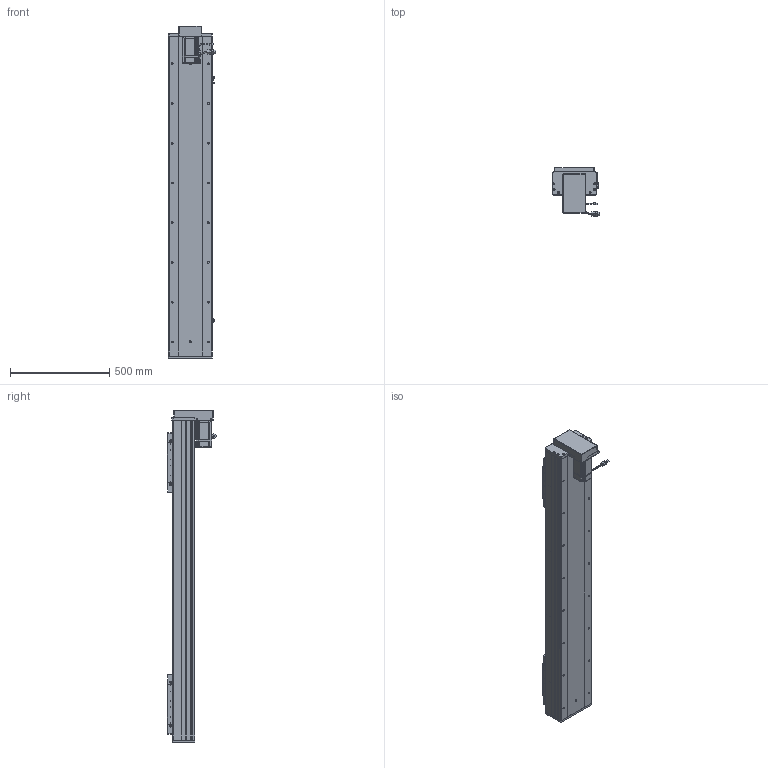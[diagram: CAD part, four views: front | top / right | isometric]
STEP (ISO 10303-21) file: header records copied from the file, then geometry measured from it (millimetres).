
FILE_DESCRIPTION (( 'STEP AP203' ), '1' );
FILE_NAME ('RY220F-L2525-300-BK.SLDASM_1200.step', '2022-07-04T01:21:02', ( '' ), ( '' ), 'SwSTEP 2.0', 'SolidWorks 2016', '' );
FILE_SCHEMA (( 'CONFIG_CONTROL_DESIGN' ));
Length unit declared in the file: millimetre
Products named in the file (15): RY220狟殏萇儂欶; 覜茼ん672; RY220狟殏萇儂假蚾啣; RY220F綴裔啣; RY220F臏賑釱25-32佪裝; RY220F-L2525-300-BK.SLDASM_1200; RY220F-蛌殏奻裔啣-300_1200; RY220F蛌殏菁釱-300_1200; RY220F-滅鳥奻裔; RY220F-672覜茼んえ; 滅袉蝶18-24; RY220F-詩湍揤踡輸; RY220F-祥凄詩湍-蛌殏-300_1200; 侐源滅袉蝶; 怢湛750W_ECMA-CX0807ES
Assembly tree (24 placements, depth 2):
  RY220F-L2525-300-BK.SLDASM_1200
    RY220F蛌殏菁釱-300_1200
    RY220F-蛌殏奻裔啣-300_1200  x2
    怢湛750W_ECMA-CX0807ES
    RY220F臏賑釱25-32佪裝  x2
    RY220F-滅鳥奻裔  x2
    滅袉蝶18-24  x3
    RY220F綴裔啣
    RY220F-祥凄詩湍-蛌殏-300_1200
    RY220F-詩湍揤踡輸  x2
    覜茼ん672  x3
    RY220F-672覜茼んえ  x2
    侐源滅袉蝶  x2
    RY220狟殏萇儂假蚾啣
    RY220狟殏萇儂欶
Bounding box: 237.27 x 247.24 x 1671 mm (x, y, z)
Volume: 15743489.9 mm3; surface area: 4079363.6 mm2
Topology: 25 solids, 25 shells, 2783 faces, 7562 edges, 4675 vertices
Faces by surface type: cylinder 1238, plane 1062, cone 412, bspline 45, sphere 16, torus 10
Entity records: 69017 total; most frequent: CARTESIAN_POINT 18717, ORIENTED_EDGE 10170, DIRECTION 9873, EDGE_CURVE 5085, AXIS2_PLACEMENT_3D 3498, VERTEX_POINT 3291, VECTOR 2877, LINE 2877
